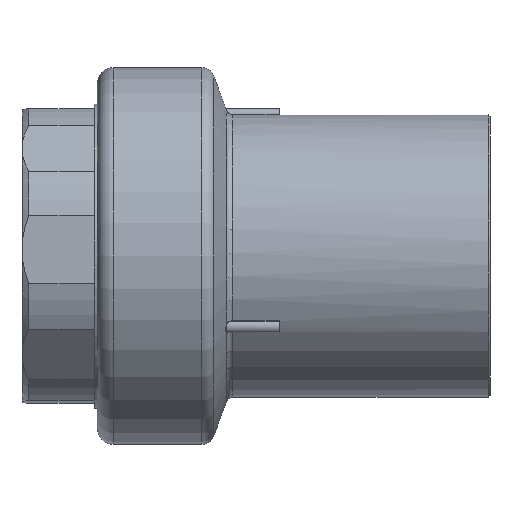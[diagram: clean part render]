
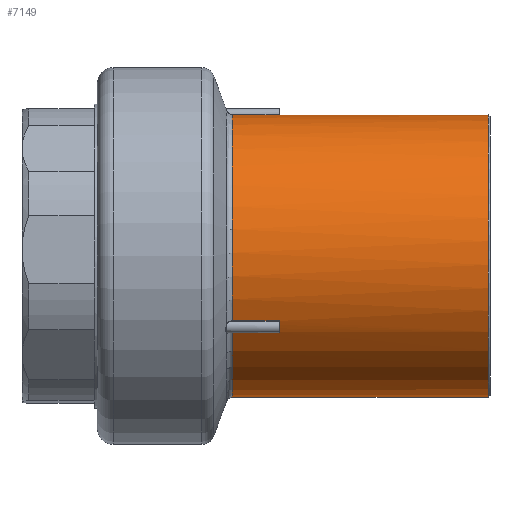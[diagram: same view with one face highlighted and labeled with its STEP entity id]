
A CAD part, front view. The second image highlights one B-rep face of the part: STEP entity #7149.
In plain terms, the highlighted cylindrical face has radius 45 mm (diameter 90 mm), a full revolution.
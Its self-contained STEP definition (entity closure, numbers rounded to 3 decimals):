
#113=LINE('',#14771,#245);
#116=LINE('',#14826,#248);
#117=LINE('',#14933,#249);
#120=LINE('',#14982,#252);
#121=LINE('',#15036,#253);
#122=LINE('',#15050,#254);
#245=VECTOR('',#10622,1000.);
#248=VECTOR('',#10647,1000.);
#249=VECTOR('',#10668,1000.);
#252=VECTOR('',#10693,1000.);
#253=VECTOR('',#10710,1000.);
#254=VECTOR('',#10713,1000.);
#893=B_SPLINE_CURVE_WITH_KNOTS('',3,(#14839,#14840,#14841,#14842),
 .UNSPECIFIED.,.F.,.F.,(4,4),(0.,0.),.UNSPECIFIED.);
#894=B_SPLINE_CURVE_WITH_KNOTS('',3,(#14855,#14856,#14857,#14858),
 .UNSPECIFIED.,.F.,.F.,(4,4),(0.,0.),.UNSPECIFIED.);
#903=B_SPLINE_CURVE_WITH_KNOTS('',3,(#14995,#14996,#14997,#14998),
 .UNSPECIFIED.,.F.,.F.,(4,4),(0.,0.),.UNSPECIFIED.);
#904=B_SPLINE_CURVE_WITH_KNOTS('',3,(#15011,#15012,#15013,#15014),
 .UNSPECIFIED.,.F.,.F.,(4,4),(0.,0.),.UNSPECIFIED.);
#907=B_SPLINE_CURVE_WITH_KNOTS('',3,(#15038,#15039,#15040,#15041),
 .UNSPECIFIED.,.F.,.F.,(4,4),(0.,0.),.UNSPECIFIED.);
#908=B_SPLINE_CURVE_WITH_KNOTS('',3,(#15045,#15046,#15047,#15048),
 .UNSPECIFIED.,.F.,.F.,(4,4),(0.,0.),.UNSPECIFIED.);
#2425=ORIENTED_EDGE('',*,*,#4164,.F.);
#2426=ORIENTED_EDGE('',*,*,#4169,.T.);
#2427=ORIENTED_EDGE('',*,*,#4170,.F.);
#2428=ORIENTED_EDGE('',*,*,#4171,.T.);
#2429=ORIENTED_EDGE('',*,*,#4172,.F.);
#2430=ORIENTED_EDGE('',*,*,#4173,.T.);
#2431=ORIENTED_EDGE('',*,*,#4136,.F.);
#2432=ORIENTED_EDGE('',*,*,#4147,.T.);
#2433=ORIENTED_EDGE('',*,*,#4162,.F.);
#2434=ORIENTED_EDGE('',*,*,#4152,.T.);
#2435=ORIENTED_EDGE('',*,*,#4163,.F.);
#2436=ORIENTED_EDGE('',*,*,#4161,.T.);
#2437=ORIENTED_EDGE('',*,*,#4107,.F.);
#2438=ORIENTED_EDGE('',*,*,#4118,.T.);
#2439=ORIENTED_EDGE('',*,*,#4134,.F.);
#2440=ORIENTED_EDGE('',*,*,#4124,.T.);
#2441=ORIENTED_EDGE('',*,*,#4135,.F.);
#2442=ORIENTED_EDGE('',*,*,#4133,.T.);
#2443=ORIENTED_EDGE('',*,*,#4174,.T.);
#4107=EDGE_CURVE('',#5054,#5055,#5593,.T.);
#4118=EDGE_CURVE('',#5054,#5063,#113,.F.);
#4124=EDGE_CURVE('',#5068,#5067,#5601,.F.);
#4133=EDGE_CURVE('',#5071,#5064,#116,.T.);
#4134=EDGE_CURVE('',#5068,#5063,#893,.T.);
#4135=EDGE_CURVE('',#5071,#5067,#894,.T.);
#4136=EDGE_CURVE('',#5072,#5073,#5607,.T.);
#4147=EDGE_CURVE('',#5072,#5080,#117,.F.);
#4152=EDGE_CURVE('',#5084,#5083,#5615,.F.);
#4161=EDGE_CURVE('',#5087,#5055,#120,.T.);
#4162=EDGE_CURVE('',#5084,#5080,#903,.T.);
#4163=EDGE_CURVE('',#5087,#5083,#904,.T.);
#4164=EDGE_CURVE('',#5088,#5064,#5621,.T.);
#4169=EDGE_CURVE('',#5088,#5091,#121,.F.);
#4170=EDGE_CURVE('',#5092,#5091,#907,.T.);
#4171=EDGE_CURVE('',#5092,#5093,#5624,.F.);
#4172=EDGE_CURVE('',#5094,#5093,#908,.T.);
#4173=EDGE_CURVE('',#5094,#5073,#122,.T.);
#4174=EDGE_CURVE('',#5095,#5095,#5625,.F.);
#5054=VERTEX_POINT('',#14700);
#5055=VERTEX_POINT('',#14701);
#5063=VERTEX_POINT('',#14770);
#5064=VERTEX_POINT('',#14789);
#5067=VERTEX_POINT('',#14804);
#5068=VERTEX_POINT('',#14806);
#5071=VERTEX_POINT('',#14824);
#5072=VERTEX_POINT('',#14863);
#5073=VERTEX_POINT('',#14864);
#5080=VERTEX_POINT('',#14932);
#5083=VERTEX_POINT('',#14960);
#5084=VERTEX_POINT('',#14962);
#5087=VERTEX_POINT('',#14980);
#5088=VERTEX_POINT('',#15019);
#5091=VERTEX_POINT('',#15037);
#5092=VERTEX_POINT('',#15042);
#5093=VERTEX_POINT('',#15044);
#5094=VERTEX_POINT('',#15049);
#5095=VERTEX_POINT('',#15052);
#5593=CIRCLE('',#9384,45.);
#5601=CIRCLE('',#9394,45.);
#5607=CIRCLE('',#9405,45.);
#5615=CIRCLE('',#9415,45.);
#5621=CIRCLE('',#9426,45.);
#5624=CIRCLE('',#9431,45.);
#5625=CIRCLE('',#9432,45.);
#6052=EDGE_LOOP('',(#2425,#2426,#2427,#2428,#2429,#2430,#2431,#2432,#2433,
#2434,#2435,#2436,#2437,#2438,#2439,#2440,#2441,#2442));
#6053=EDGE_LOOP('',(#2443));
#6566=FACE_BOUND('',#6052,.T.);
#6567=FACE_BOUND('',#6053,.T.);
#6875=CYLINDRICAL_SURFACE('',#9430,45.);
#7149=ADVANCED_FACE('',(#6566,#6567),#6875,.T.);
#9384=AXIS2_PLACEMENT_3D('',#14699,#10608,#10609);
#9394=AXIS2_PLACEMENT_3D('',#14805,#10630,#10631);
#9405=AXIS2_PLACEMENT_3D('',#14862,#10654,#10655);
#9415=AXIS2_PLACEMENT_3D('',#14961,#10676,#10677);
#9426=AXIS2_PLACEMENT_3D('',#15018,#10700,#10701);
#9430=AXIS2_PLACEMENT_3D('',#15035,#10708,#10709);
#9431=AXIS2_PLACEMENT_3D('',#15043,#10711,#10712);
#9432=AXIS2_PLACEMENT_3D('',#15051,#10714,#10715);
#10608=DIRECTION('',(-1.,0.,0.));
#10609=DIRECTION('',(0.,0.,1.));
#10622=DIRECTION('',(-1.,0.,0.));
#10630=DIRECTION('',(-1.,0.,0.));
#10631=DIRECTION('',(0.,0.5,0.866));
#10647=DIRECTION('',(-1.,0.,0.));
#10654=DIRECTION('',(-1.,0.,0.));
#10655=DIRECTION('',(0.,0.,1.));
#10668=DIRECTION('',(-1.,0.,0.));
#10676=DIRECTION('',(-1.,0.,0.));
#10677=DIRECTION('',(0.,0.5,-0.866));
#10693=DIRECTION('',(-1.,0.,0.));
#10700=DIRECTION('',(-1.,0.,0.));
#10701=DIRECTION('',(0.,0.,1.));
#10708=DIRECTION('',(-1.,0.,0.));
#10709=DIRECTION('',(0.,0.,1.));
#10710=DIRECTION('',(-1.,0.,0.));
#10711=DIRECTION('',(-1.,0.,0.));
#10712=DIRECTION('',(0.,-1.,0.));
#10713=DIRECTION('',(-1.,0.,0.));
#10714=DIRECTION('',(1.,0.,0.));
#10715=DIRECTION('',(0.,0.,-1.));
#14699=CARTESIAN_POINT('',(43.,0.,0.));
#14700=CARTESIAN_POINT('',(43.,37.882,-24.288));
#14701=CARTESIAN_POINT('',(43.,-37.882,-24.288));
#14770=CARTESIAN_POINT('',(57.9,37.882,-24.288));
#14771=CARTESIAN_POINT('',(-60.,37.882,-24.288));
#14789=CARTESIAN_POINT('',(43.,39.976,-20.663));
#14804=CARTESIAN_POINT('',(58.1,39.883,-20.841));
#14805=CARTESIAN_POINT('',(58.1,0.,0.));
#14806=CARTESIAN_POINT('',(58.1,37.99,-24.119));
#14824=CARTESIAN_POINT('',(57.9,39.976,-20.663));
#14826=CARTESIAN_POINT('',(-60.,39.976,-20.663));
#14839=CARTESIAN_POINT('',(58.1,37.99,-24.119));
#14840=CARTESIAN_POINT('',(58.1,37.934,-24.209));
#14841=CARTESIAN_POINT('',(58.006,37.882,-24.288));
#14842=CARTESIAN_POINT('',(57.9,37.882,-24.288));
#14855=CARTESIAN_POINT('',(57.9,39.976,-20.663));
#14856=CARTESIAN_POINT('',(58.006,39.976,-20.663));
#14857=CARTESIAN_POINT('',(58.1,39.932,-20.747));
#14858=CARTESIAN_POINT('',(58.1,39.883,-20.841));
#14862=CARTESIAN_POINT('',(43.,0.,0.));
#14863=CARTESIAN_POINT('',(43.,-39.976,-20.663));
#14864=CARTESIAN_POINT('',(43.,-2.093,44.951));
#14932=CARTESIAN_POINT('',(57.9,-39.976,-20.663));
#14933=CARTESIAN_POINT('',(-60.,-39.976,-20.663));
#14960=CARTESIAN_POINT('',(58.1,-37.99,-24.119));
#14961=CARTESIAN_POINT('',(58.1,0.,0.));
#14962=CARTESIAN_POINT('',(58.1,-39.883,-20.841));
#14980=CARTESIAN_POINT('',(57.9,-37.882,-24.288));
#14982=CARTESIAN_POINT('',(-60.,-37.882,-24.288));
#14995=CARTESIAN_POINT('',(58.1,-39.883,-20.841));
#14996=CARTESIAN_POINT('',(58.1,-39.932,-20.747));
#14997=CARTESIAN_POINT('',(58.006,-39.976,-20.663));
#14998=CARTESIAN_POINT('',(57.9,-39.976,-20.663));
#15011=CARTESIAN_POINT('',(57.9,-37.882,-24.288));
#15012=CARTESIAN_POINT('',(58.006,-37.882,-24.288));
#15013=CARTESIAN_POINT('',(58.1,-37.934,-24.209));
#15014=CARTESIAN_POINT('',(58.1,-37.99,-24.119));
#15018=CARTESIAN_POINT('',(43.,0.,0.));
#15019=CARTESIAN_POINT('',(43.,2.093,44.951));
#15035=CARTESIAN_POINT('',(-60.,0.,0.));
#15036=CARTESIAN_POINT('',(-60.,2.093,44.951));
#15037=CARTESIAN_POINT('',(57.9,2.093,44.951));
#15038=CARTESIAN_POINT('',(58.1,1.893,44.96));
#15039=CARTESIAN_POINT('',(58.1,1.999,44.956));
#15040=CARTESIAN_POINT('',(58.006,2.093,44.951));
#15041=CARTESIAN_POINT('',(57.9,2.093,44.951));
#15042=CARTESIAN_POINT('',(58.1,1.893,44.96));
#15043=CARTESIAN_POINT('',(58.1,0.,0.));
#15044=CARTESIAN_POINT('',(58.1,-1.893,44.96));
#15045=CARTESIAN_POINT('',(57.9,-2.093,44.951));
#15046=CARTESIAN_POINT('',(58.006,-2.093,44.951));
#15047=CARTESIAN_POINT('',(58.1,-1.999,44.956));
#15048=CARTESIAN_POINT('',(58.1,-1.893,44.96));
#15049=CARTESIAN_POINT('',(57.9,-2.093,44.951));
#15050=CARTESIAN_POINT('',(-60.,-2.093,44.951));
#15051=CARTESIAN_POINT('',(124.5,0.,0.));
#15052=CARTESIAN_POINT('',(124.5,0.,-45.));
